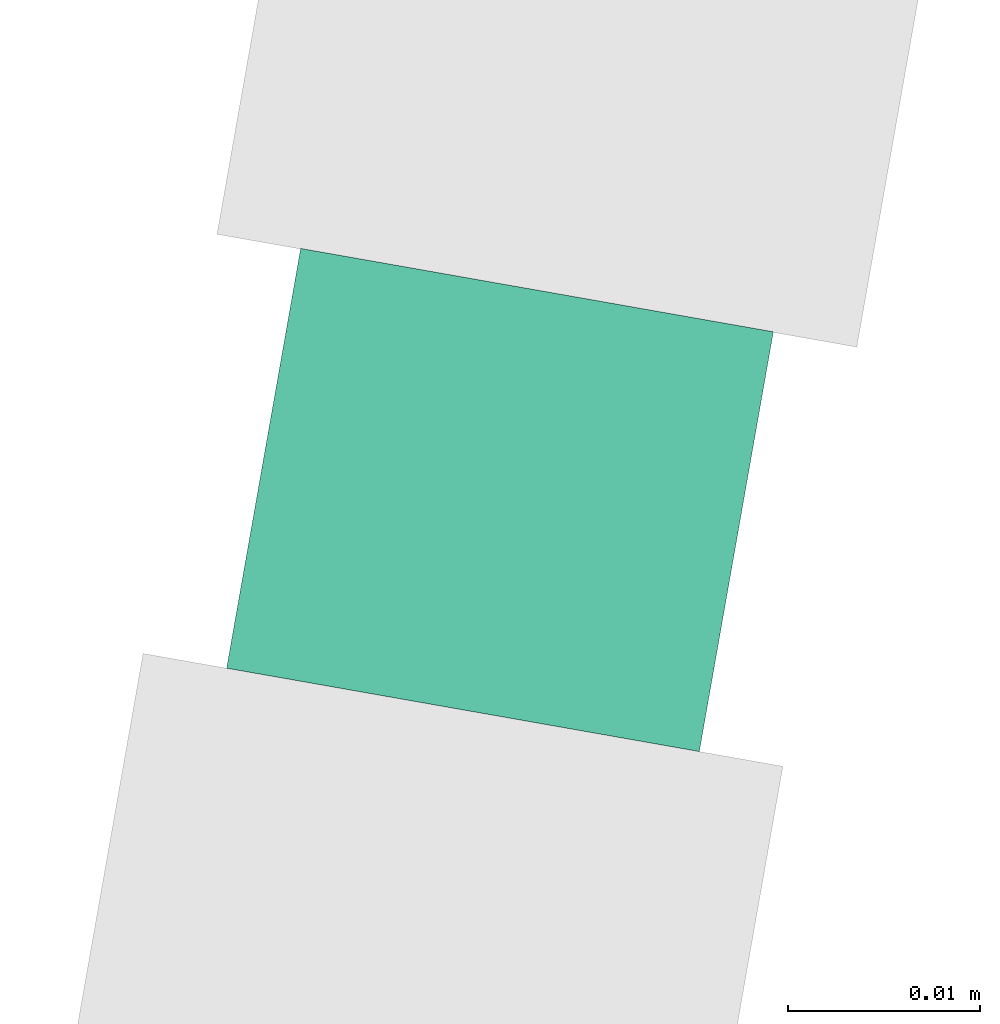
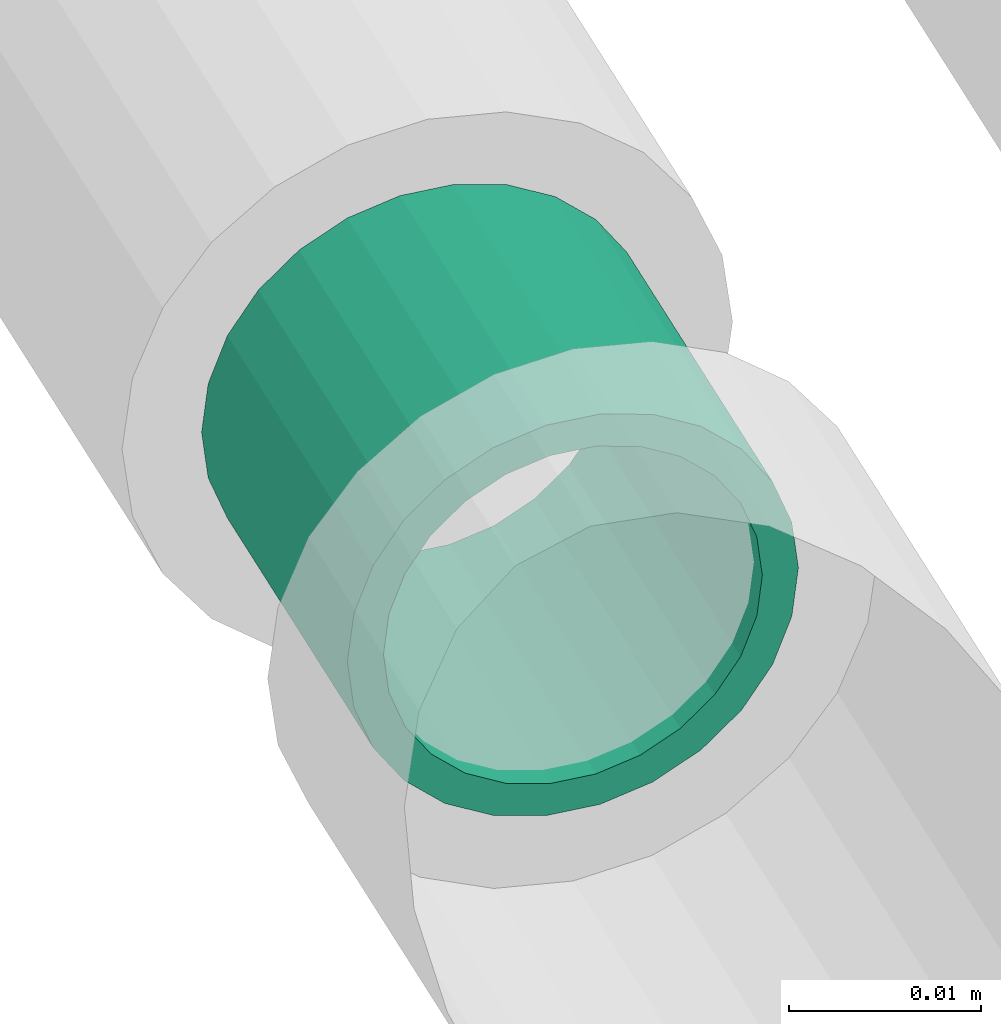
# One storey, part 19 of 22: 1 flow segment.
"""IFC2X3 building model written with IfcOpenShell, lengths in millimetres."""

from ifc_helpers import new_model, entity, si_unit, converted_unit, derived_unit, direction, frame, origin_with_axes, origin_2d_with_axis, place, context, subcontext, project, spatial, hollow_circle, extrude, source, transform, mapped, type_object, element, save


model = new_model("IFC2X3")

# Units and contexts
model_context = context("Model", 3, precision=0.01, world=frame((0.0, 4.29681676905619e-09, 0.0)), true_north=direction((4.01073788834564e-13, 1.0)))
plan_context = context("Plan", 3, precision=0.01, world=frame((0.0, 4.29681676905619e-09, 0.0)), true_north=direction((4.01073788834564e-13, 1.0)))
body_context = subcontext(model_context, "Body", "Model", "MODEL_VIEW")
ifc_project = project(units=[converted_unit("PLANEANGLEUNIT", "DEGREE", entity("IfcPositiveLengthMeasure", 0.0174532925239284), si_unit("PLANEANGLEUNIT", "RADIAN"), dimensions=[0, 0, 0, 0, 0, 0, 0]), si_unit("AREAUNIT", "SQUARE_METRE"), si_unit("LENGTHUNIT", "METRE", prefix="MILLI"), si_unit("MASSUNIT", "GRAM", prefix="KILO"), si_unit("POWERUNIT", "WATT"), si_unit("PRESSUREUNIT", "PASCAL", prefix="KILO"), si_unit("FORCEUNIT", "NEWTON", prefix="KILO"), si_unit("ELECTRICVOLTAGEUNIT", "VOLT"), si_unit("ELECTRICCURRENTUNIT", "AMPERE"), si_unit("THERMODYNAMICTEMPERATUREUNIT", "DEGREE_CELSIUS"), si_unit("TIMEUNIT", "SECOND"), si_unit("VOLUMEUNIT", "CUBIC_METRE"), derived_unit("LINEARVELOCITYUNIT", [(si_unit("LENGTHUNIT", "METRE"), 1), (si_unit("TIMEUNIT", "SECOND"), -1)]), derived_unit("VOLUMETRICFLOWRATEUNIT", [(si_unit("VOLUMEUNIT", "CUBIC_METRE"), 1), (si_unit("TIMEUNIT", "SECOND"), -1)]), derived_unit("THERMALTRANSMITTANCEUNIT", [(si_unit("POWERUNIT", "WATT"), 1), (si_unit("THERMODYNAMICTEMPERATUREUNIT", "KELVIN"), -1), (si_unit("AREAUNIT", "SQUARE_METRE"), -1)]), derived_unit("SOUNDPRESSUREUNIT", [(si_unit("PRESSUREUNIT", "PASCAL"), 1)])], contexts=[model_context, plan_context])

# Site, building, storey
site_placement = place(None, frame((0.0, -4.29681676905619e-09, 0.0), z_axis=(0.0, 0.0, 1.0), x_axis=(1.0, 0.0, 0.0)))
site = spatial("IfcSite", under=ifc_project, at=site_placement, Name="ENGM", CompositionType="ELEMENT")
building_placement = place(site_placement, frame((0.0, 4.29681676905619e-09, 0.0), z_axis=(0.0, 0.0, 1.0), x_axis=(1.0, 0.0, 0.0)))
building = spatial("IfcBuilding", under=site, at=building_placement, Name="TI", CompositionType="ELEMENT")
storey_placement = place(building_placement, frame((0.0, 0.0, 210900.0), z_axis=(0.0, 0.0, 1.0), x_axis=(1.0, 0.0, 0.0)))
storey = spatial("IfcBuildingStorey", under=building, at=storey_placement, Name="Nivå F", CompositionType="ELEMENT", Elevation=210900.0)

# Flow segment
cable_carrier_segment_type = type_object("IfcCableCarrierSegmentType", Name="Trekkerør, korrugert", PredefinedType="CONDUITSEGMENT")
shared_shape = source(origin_with_axes(), body_context, "Body", "SweptSolid", [
    extrude(hollow_circle(Radius=12.5, WallThickness=2.0, at=origin_2d_with_axis()), frame((0.0, 0.0, 0.0), z_axis=(1.0, 0.0, 0.0), x_axis=(0.0, 1.0, 0.0)), (0.0, 0.0, 1.0), 22.2),
])
flow_segment_placement = place(storey_placement, frame((600900.5186, 571736.43862, -56.7999999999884), z_axis=(0.0, 0.0, 1.0), x_axis=(0.173647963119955, 0.984807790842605, 0.0)))
element("IfcFlowSegment", 1, at=flow_segment_placement, inside=storey, type_object=cable_carrier_segment_type, Name="Trekkerør, korrugert", context=body_context, shape_type="MappedRepresentation", body=[
    mapped(shared_shape, transform((0.0, 0.0, 0.0), scale=1.0)),
])

save(model, "model.ifc")
